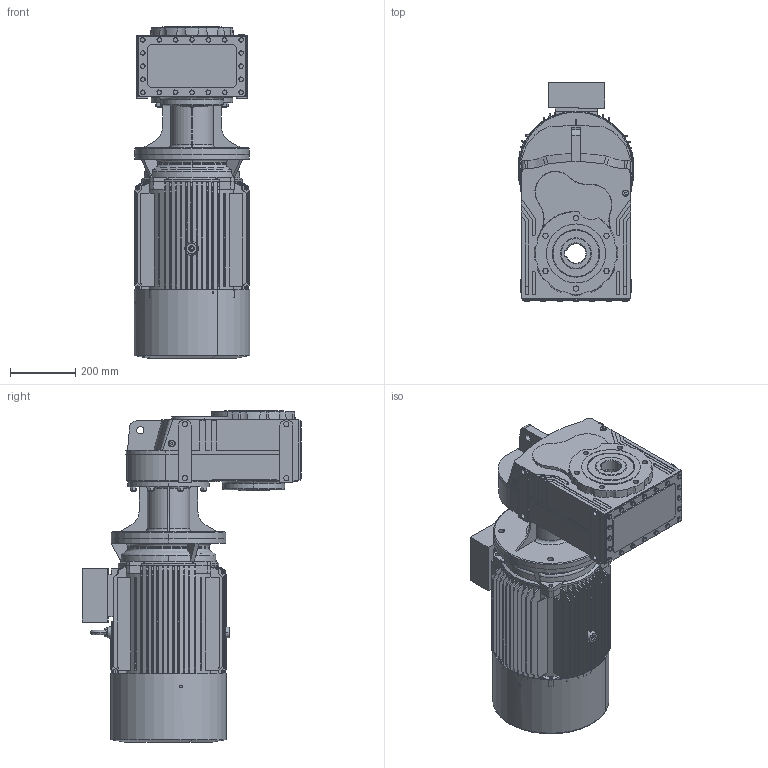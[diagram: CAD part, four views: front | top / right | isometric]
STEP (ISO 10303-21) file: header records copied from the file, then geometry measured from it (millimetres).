
FILE_DESCRIPTION (( 'STEP AP203' ), '1' );
FILE_NAME ('DV572-DV573-3M-180L.STEP', '2019-07-23T12:38:21', ( '' ), ( '' ), 'SwSTEP 2.0', 'SolidWorks 2012', '' );
FILE_SCHEMA (( 'CONFIG_CONTROL_DESIGN' ));
Products named in the file (12): M3-180L-FF-B5; Y2-180-4.6.8+ª-¯ª­-È®+_-++ñ; Y2-180C++A+¦-¯ª¦+¦_-++ñ; DV572-DV573-3M-180L; Y2-180LB5+À+¿_-++ñ; Eyebolts GB_GB_FASTENER_SCREWS_FRS M12; Y2-180-4.6.8-ª+---®+_-++ñ; Y2-180+¦i-_-++ñ; DN_57_3_0_A-B18_B5_ML59A_0_0_0_0_0_0_0_0_0_0_0_0_M1; 43180B5_Varsayìlan; ML59A_Varsayìlan; D573_Varsayìlan
Assembly tree (11 placements, depth 3):
  DV572-DV573-3M-180L
    DN_57_3_0_A-B18_B5_ML59A_0_0_0_0_0_0_0_0_0_0_0_0_M1
      D573_Varsayìlan
      43180B5_Varsayìlan
      ML59A_Varsayìlan
    M3-180L-FF-B5
      Eyebolts GB_GB_FASTENER_SCREWS_FRS M12
      Y2-180LB5+À+¿_-++ñ
      Y2-180+¦i-_-++ñ
      Y2-180-4.6.8-ª+---®+_-++ñ
      Y2-180C++A+¦-¯ª¦+¦_-++ñ
      Y2-180-4.6.8+ª-¯ª­-È®+_-++ñ
Bounding box: 354.06 x 670.89 x 1014 mm (x, y, z)
Volume: 44881147.3 mm3; surface area: 4241801.1 mm2
Topology: 12 solids, 12 shells, 1926 faces, 4879 edges, 3113 vertices
Faces by surface type: plane 812, cylinder 524, cone 518, bspline 36, torus 36
Entity records: 65119 total; most frequent: CARTESIAN_POINT 17881, ORIENTED_EDGE 9758, DIRECTION 9459, EDGE_CURVE 4879, AXIS2_PLACEMENT_3D 3665, VERTEX_POINT 3113, EDGE_LOOP 2138, LINE 2129
